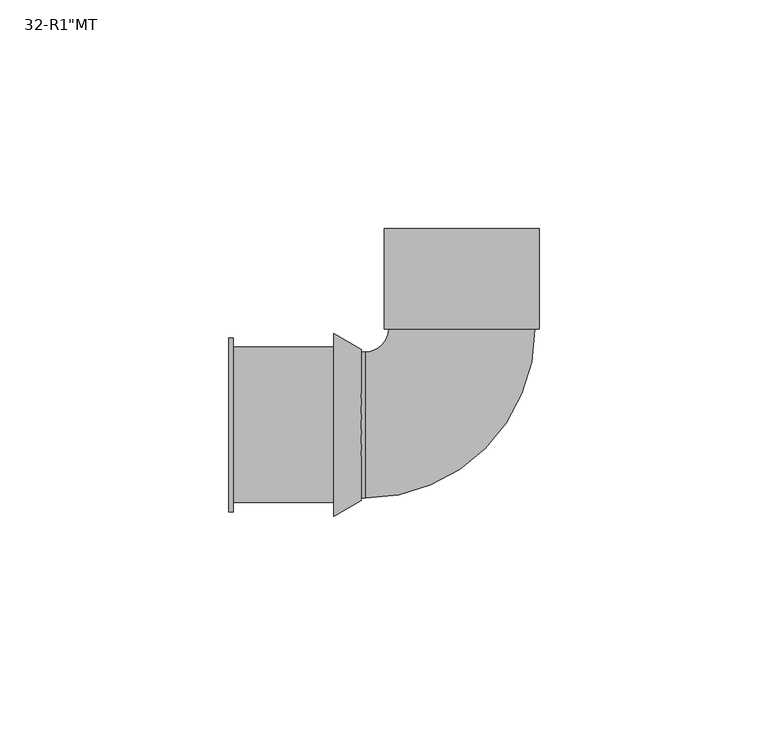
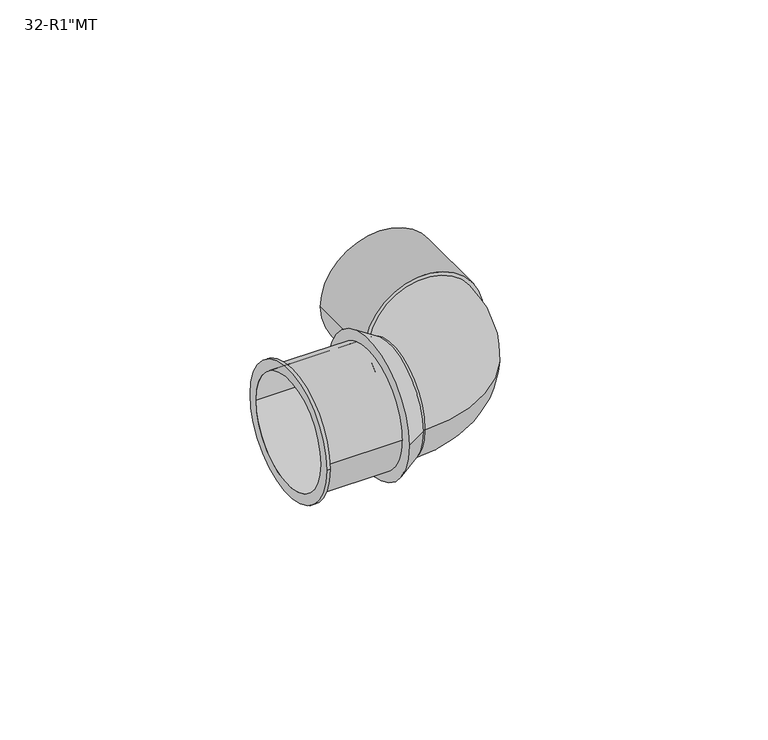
"""IFC4 building model written with IfcOpenShell, lengths in millimetres: pipe fitting geometry."""

from ifc_helpers import new_model, si_unit, point, frame, origin, origin_2d, place, context, project, spatial, polyline, circle_curve, ellipse_curve, trimmed, segment, composite_curve, outline, extrude, source, transform, mapped, element, save
from ifc_brep_helpers import plane_surface, cylinder_surface, revolved_surface, advanced_brep


def pipe_fitting_925f8ba6(model_context):
    return source(origin(), model_context, "Body", "SolidModel", [
        advanced_brep(
        [(16.0, 21.0, 0.0), (-16.0, 21.0, 0.0), (-21.0, 16.0, 0.0), (-21.0, -16.0, 0.0), (-22.0, -16.0, 0.0), (-22.0, 16.0, 0.0)],
        [
            (0, 1, circle_curve(frame((0.0, 21.0, 0.0), z_axis=(0.0, 1.0, 0.0), x_axis=(-1.0, 0.0, 0.0)), 16.0)),
            (1, 0, circle_curve(frame((0.0, 21.0, 0.0), z_axis=(0.0, 1.0, 0.0), x_axis=(-1.0, 0.0, 0.0)), 16.0)),
            (1, 2, circle_curve(frame((-21.0, 21.0, 0.0), z_axis=(0.0, 0.0, -1.0), x_axis=(0.0, -1.0, 0.0)), 5.0)),
            (2, 3, circle_curve(frame((-21.0, 0.0, 0.0), z_axis=(1.0, 0.0, 0.0), x_axis=(0.0, 1.0, 0.0)), 16.0)),
            (3, 0, circle_curve(frame((-21.0, 21.0, 0.0), z_axis=(0.0, 0.0, 1.0), x_axis=(0.0, -1.0, 0.0)), 37.0)),
            (3, 2, circle_curve(frame((-21.0, 0.0, 0.0), z_axis=(1.0, 0.0, 0.0), x_axis=(0.0, 1.0, 0.0)), 16.0)),
            (4, 5, circle_curve(frame((-22.0, 0.0, 0.0), z_axis=(-1.0, 0.0, 0.0), x_axis=(0.0, 1.0, 0.0)), 16.0)),
            (5, 4, circle_curve(frame((-22.0, 0.0, 0.0), z_axis=(-1.0, 0.0, 0.0), x_axis=(0.0, 1.0, 0.0)), 16.0)),
            (4, 3),
            (2, 5),
        ],
        [
            plane_surface(frame((0.0, 21.0, 0.0), z_axis=(0.0, 1.0, 0.0), x_axis=(0.0, 0.0, 1.0))),
            revolved_surface(trimmed(ellipse_curve(frame((-21.0, 0.0, 0.0), z_axis=(-1.0, 0.0, 0.0), x_axis=(0.0, 1.0, 0.0)), 16.0, 16.0), [point((-21.0, -16.0, 0.0))], [point((-21.0, 16.0, 0.0))], True, "CARTESIAN"), (-21.0, 21.0, 0.0), (0.0, 0.0, 1.0)),
            revolved_surface(trimmed(ellipse_curve(frame((-21.0, 0.0, 0.0), z_axis=(-1.0, 0.0, 0.0), x_axis=(0.0, 1.0, 0.0)), 16.0, 16.0), [point((-21.0, 16.0, 0.0))], [point((-21.0, -16.0, 0.0))], True, "CARTESIAN"), (-21.0, 21.0, 0.0), (0.0, 0.0, 1.0)),
            plane_surface(frame((-22.0, 0.0, 0.0), z_axis=(-1.0, 0.0, 0.0), x_axis=(0.0, 0.0, 1.0))),
            cylinder_surface(frame((-22.0, 0.0, 0.0), z_axis=(-1.0, 0.0, 0.0), x_axis=(0.0, 1.0, 0.0)), 16.0),
        ],
        [
            (0, [[1, 2]]),
            (1, [[-2, 3, 4, 5]]),
            (2, [[-1, -5, 6, -3]]),
            (3, [[7, 8]]),
            (4, [[-7, 9, -4, 10]]),
            (4, [[-8, -10, -6, -9]]),
        ],
    ),
        extrude(outline(composite_curve([segment(trimmed(circle_curve(origin_2d(), 17.0), [point((0.0, -17.0))], [point((0.0, 17.0))], False, "CARTESIAN"), True, "CONTINUOUS"), segment(trimmed(circle_curve(origin_2d(), 17.0), [point((0.0, 17.0))], [point((0.0, -17.0))], False, "CARTESIAN"), True, "CONTINUOUS")], self_intersect=False), holes=[composite_curve([segment(trimmed(circle_curve(origin_2d(), 12.0), [point((0.0, -12.0))], [point((0.0, 12.0))], True, "CARTESIAN"), True, "CONTINUOUS"), segment(trimmed(circle_curve(origin_2d(), 12.0), [point((0.0, 12.0))], [point((0.0, -12.0))], True, "CARTESIAN"), True, "CONTINUOUS")], self_intersect=False)]), frame((0.0, 21.0, 0.0), z_axis=(0.0, 1.0, 0.0), x_axis=(0.0, 0.0, 1.0)), (0.0, 0.0, 1.0), 22.0),
        advanced_brep(
        [(-22.0, -16.5, 0.0), (-22.0, 16.5, 0.0), (-22.0, 16.0, 0.0), (-22.0, -16.0, 0.0), (-28.0, -20.0, 0.0), (-28.0, 20.0, 0.0), (-28.0, -16.0, 0.0), (-28.0, 16.0, 0.0)],
        [
            (0, 1, circle_curve(frame((-22.0, 0.0, 0.0), z_axis=(1.0, 0.0, 0.0), x_axis=(0.0, -1.0, 0.0)), 16.5)),
            (1, 0, circle_curve(frame((-22.0, 0.0, 0.0), z_axis=(1.0, 0.0, 0.0), x_axis=(0.0, 1.0, 0.0)), 16.5)),
            (2, 3, circle_curve(frame((-22.0, 0.0, 0.0), z_axis=(-1.0, 0.0, 0.0), x_axis=(0.0, 1.0, 0.0)), 16.0)),
            (3, 2, circle_curve(frame((-22.0, 0.0, 0.0), z_axis=(-1.0, 0.0, 0.0), x_axis=(0.0, 1.0, 0.0)), 16.0)),
            (4, 5, circle_curve(frame((-28.0, 0.0, 0.0), z_axis=(-1.0, 0.0, 0.0), x_axis=(0.0, 1.0, 0.0)), 20.0)),
            (5, 4, circle_curve(frame((-28.0, 0.0, 0.0), z_axis=(-1.0, 0.0, 0.0), x_axis=(0.0, -1.0, 0.0)), 20.0)),
            (6, 7, circle_curve(frame((-28.0, 0.0, 0.0), z_axis=(1.0, 0.0, 0.0), x_axis=(0.0, 1.0, 0.0)), 16.0)),
            (7, 6, circle_curve(frame((-28.0, 0.0, 0.0), z_axis=(1.0, 0.0, 0.0), x_axis=(0.0, 1.0, 0.0)), 16.0)),
            (0, 4),
            (5, 1),
            (2, 7),
            (6, 3),
        ],
        [
            plane_surface(frame((-22.0, 0.0, 0.0), z_axis=(1.0, 0.0, 0.0), x_axis=(0.0, 0.0, -1.0))),
            plane_surface(frame((-28.0, 0.0, 0.0), z_axis=(-1.0, 0.0, 0.0), x_axis=(0.0, 0.0, -1.0))),
            revolved_surface(polyline([(-22.0, -16.500000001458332, 0.0), (-28.0, -20.0, 0.0)]), (6.2857143, 0.0, 0.0), (-1.0, 0.0, 0.0)),
            revolved_surface(polyline([(-22.0, 16.500000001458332, 0.0), (-28.0, 20.0, 0.0)]), (6.2857143, 0.0, 0.0), (-1.0, 0.0, 0.0)),
            revolved_surface(polyline([(-22.0, 16.0, 0.0), (-28.0, 16.0, 0.0)]), (-28.0, 0.0, 0.0), (1.0, 0.0, 0.0)),
        ],
        [
            (0, [[1, 2], [3, 4]]),
            (1, [[5, 6], [7, 8]]),
            (2, [[-1, 9, -6, 10]]),
            (3, [[-2, -10, -5, -9]]),
            (4, [[11, -7, 12, -3]]),
            (4, [[-11, -4, -12, -8]]),
        ],
    ),
        advanced_brep(
        [(-51.0, -19.0, 0.0), (-51.0, 19.0, 0.0), (-51.0, -16.0, 0.0), (-51.0, 16.0, 0.0), (-28.0, -17.0, 0.0), (-28.0, 17.0, 0.0), (-28.0, -16.0, 0.0), (-28.0, 16.0, 0.0), (-50.0, 17.0, 0.0), (-50.0, -17.0, 0.0), (-50.0, -19.0, 0.0), (-50.0, 19.0, 0.0)],
        [
            (0, 1, circle_curve(frame((-51.0, 0.0, 0.0), z_axis=(-1.0, 0.0, 0.0), x_axis=(0.0, 1.0, 0.0)), 19.0)),
            (1, 0, circle_curve(frame((-51.0, 0.0, 0.0), z_axis=(-1.0, 0.0, 0.0), x_axis=(0.0, 1.0, 0.0)), 19.0)),
            (2, 3, circle_curve(frame((-51.0, 0.0, 0.0), z_axis=(1.0, 0.0, 0.0), x_axis=(0.0, 1.0, 0.0)), 16.0)),
            (3, 2, circle_curve(frame((-51.0, 0.0, 0.0), z_axis=(1.0, 0.0, 0.0), x_axis=(0.0, 1.0, 0.0)), 16.0)),
            (4, 5, circle_curve(frame((-28.0, 0.0, 0.0), z_axis=(1.0, 0.0, 0.0), x_axis=(0.0, 1.0, 0.0)), 17.0)),
            (5, 4, circle_curve(frame((-28.0, 0.0, 0.0), z_axis=(1.0, 0.0, 0.0), x_axis=(0.0, 1.0, 0.0)), 17.0)),
            (6, 7, circle_curve(frame((-28.0, 0.0, 0.0), z_axis=(-1.0, 0.0, 0.0), x_axis=(0.0, 1.0, 0.0)), 16.0)),
            (7, 6, circle_curve(frame((-28.0, 0.0, 0.0), z_axis=(-1.0, 0.0, 0.0), x_axis=(0.0, 1.0, 0.0)), 16.0)),
            (2, 6),
            (7, 3),
            (5, 8),
            (8, 9, circle_curve(frame((-50.0, 0.0, 0.0), z_axis=(1.0, 0.0, 0.0), x_axis=(0.0, 1.0, 0.0)), 17.0)),
            (9, 4),
            (9, 8, circle_curve(frame((-50.0, 0.0, 0.0), z_axis=(1.0, 0.0, 0.0), x_axis=(0.0, 1.0, 0.0)), 17.0)),
            (10, 11, circle_curve(frame((-50.0, 0.0, 0.0), z_axis=(1.0, 0.0, 0.0), x_axis=(0.0, 1.0, 0.0)), 19.0)),
            (11, 10, circle_curve(frame((-50.0, 0.0, 0.0), z_axis=(1.0, 0.0, 0.0), x_axis=(0.0, 1.0, 0.0)), 19.0)),
            (0, 10),
            (11, 1),
        ],
        [
            plane_surface(frame((-51.0, 0.0, 0.0), z_axis=(-1.0, 0.0, 0.0), x_axis=(0.0, 0.0, 1.0))),
            plane_surface(frame((-28.0, 0.0, 0.0), z_axis=(1.0, 0.0, 0.0), x_axis=(0.0, 0.0, 1.0))),
            revolved_surface(polyline([(-28.0, 16.0, 0.0), (-51.0, 16.0, 0.0)]), (-51.0, 0.0, 0.0), (1.0, 0.0, 0.0)),
            cylinder_surface(frame((-51.0, 0.0, 0.0), z_axis=(-1.0, 0.0, 0.0), x_axis=(0.0, 1.0, 0.0)), 17.0),
            plane_surface(frame((-50.0, 0.0, 0.0), z_axis=(1.0, 0.0, 0.0), x_axis=(0.0, 0.0, 1.0))),
            cylinder_surface(frame((-51.0, 0.0, 0.0), z_axis=(-1.0, 0.0, 0.0), x_axis=(0.0, 1.0, 0.0)), 19.0),
        ],
        [
            (0, [[1, 2], [3, 4]]),
            (1, [[5, 6], [7, 8]]),
            (2, [[-3, 9, -8, 10]]),
            (2, [[-4, -10, -7, -9]]),
            (3, [[-6, 11, 12, 13]]),
            (3, [[-5, -13, 14, -11]]),
            (4, [[15, 16], [-12, -14]]),
            (5, [[-1, 17, -16, 18]]),
            (5, [[-2, -18, -15, -17]]),
        ],
    ),
    ])


if __name__ == "__main__":
    model = new_model("IFC4")
    model_context = context("Model", 3, world=origin())
    ifc_project = project(units=[si_unit("LENGTHUNIT", "METRE", prefix="MILLI")], contexts=[model_context])
    site = spatial("IfcSite", under=ifc_project)
    building = spatial("IfcBuilding", under=site)
    placement = place(None, origin())
    pipe_fitting_shape = pipe_fitting_925f8ba6(model_context)
    element("IfcPipeFitting", 1, ObjectType="SuperPipe_ElbowAdapterMT_MAX_R : 32-R1\"MT", at=placement, inside=building, context=model_context, shape_type="MappedRepresentation", body=[
        mapped(pipe_fitting_shape, transform((0.0, 0.0, 0.0), x_axis=(1.0, 0.0, 0.0), y_axis=(0.0, 1.0, 0.0), z_axis=(0.0, 0.0, 1.0))),
    ])
    save(model, "model.ifc")
